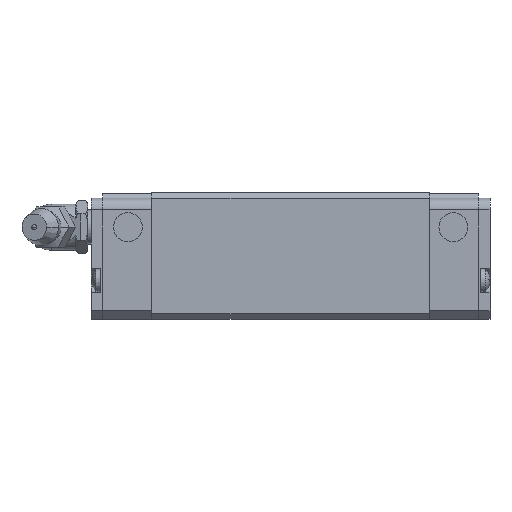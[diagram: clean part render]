
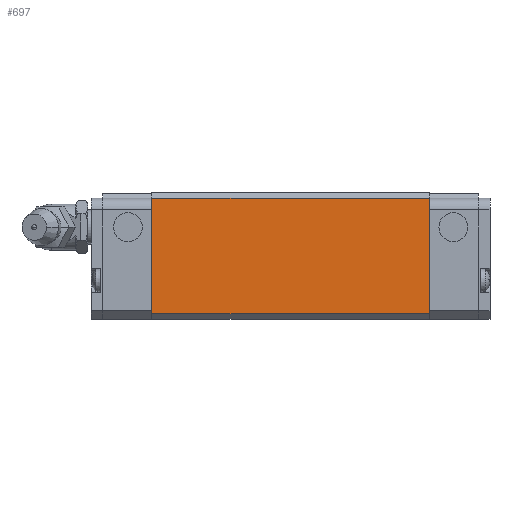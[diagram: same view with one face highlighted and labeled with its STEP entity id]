
A CAD part, front view. The second image highlights one B-rep face of the part: STEP entity #697.
In plain terms, the highlighted planar face has unit normal (0, -1, 0).
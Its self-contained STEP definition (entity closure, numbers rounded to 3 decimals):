
#636=CARTESIAN_POINT('POINT40',(58.6,-21.,1.
   ));
#637=VERTEX_POINT('VERTEX40',#636);
#644=CARTESIAN_POINT('POINT41',(10.5,-21.,1.
   ));
#645=VERTEX_POINT('VERTEX41',#644);
#646=CARTESIAN_POINT('POS65',(10.5,-21.,1.))
   ;
#647=DIRECTION('DIR98',(1.,0.,0.));
#648=VECTOR('VEC32',#647,1.);
#649=LINE('STRAIGHT32',#646,#648);
#650=EDGE_CURVE('EDGE64',#645,#637,#649,.T.);
#667=CARTESIAN_POINT('POINT42',(58.6,-21.,
   21.));
#668=VERTEX_POINT('VERTEX42',#667);
#669=CARTESIAN_POINT('POS68',(58.6,-21.,1.))
   ;
#670=DIRECTION('DIR102',(0.,0.,1.));
#671=VECTOR('VEC34',#670,1.);
#672=LINE('STRAIGHT34',#669,#671);
#673=EDGE_CURVE('EDGE66',#637,#668,#672,.T.);
#674=ORIENTED_EDGE('COEDGE119',*,*,#673,.T.);
#675=CARTESIAN_POINT('POINT43',(10.5,-21.,
   21.));
#676=VERTEX_POINT('VERTEX43',#675);
#677=CARTESIAN_POINT('POS69',(10.5,-21.,21.)
   );
#678=DIRECTION('DIR103',(1.,0.,0.));
#679=VECTOR('VEC35',#678,1.);
#680=LINE('STRAIGHT35',#677,#679);
#681=EDGE_CURVE('EDGE67',#676,#668,#680,.T.);
#682=ORIENTED_EDGE('COEDGE120',*,*,#681,.F.);
#683=CARTESIAN_POINT('POS70',(10.5,-21.,1.))
   ;
#684=DIRECTION('DIR104',(0.,0.,1.));
#685=VECTOR('VEC36',#684,1.);
#686=LINE('STRAIGHT36',#683,#685);
#687=EDGE_CURVE('EDGE68',#645,#676,#686,.T.);
#688=ORIENTED_EDGE('COEDGE121',*,*,#687,.F.);
#689=ORIENTED_EDGE('COEDGE122',*,*,#650,.T.);
#690=EDGE_LOOP('NONE',(#674,#682,#688,#689));
#691=FACE_BOUND('LOOP1',#690,.T.);
#692=CARTESIAN_POINT('POS71',(10.5,-21.,1.))
   ;
#693=DIRECTION('DIR105',(0.,-1.,0.));
#694=DIRECTION('DIR106',(1.,0.,0.));
#695=AXIS2_PLACEMENT_3D('AXIS35',#692,#693,#694);
#696=PLANE('PLANE6',#695);
#697=ADVANCED_FACE('FACE32',(#691),#696,.T.);
